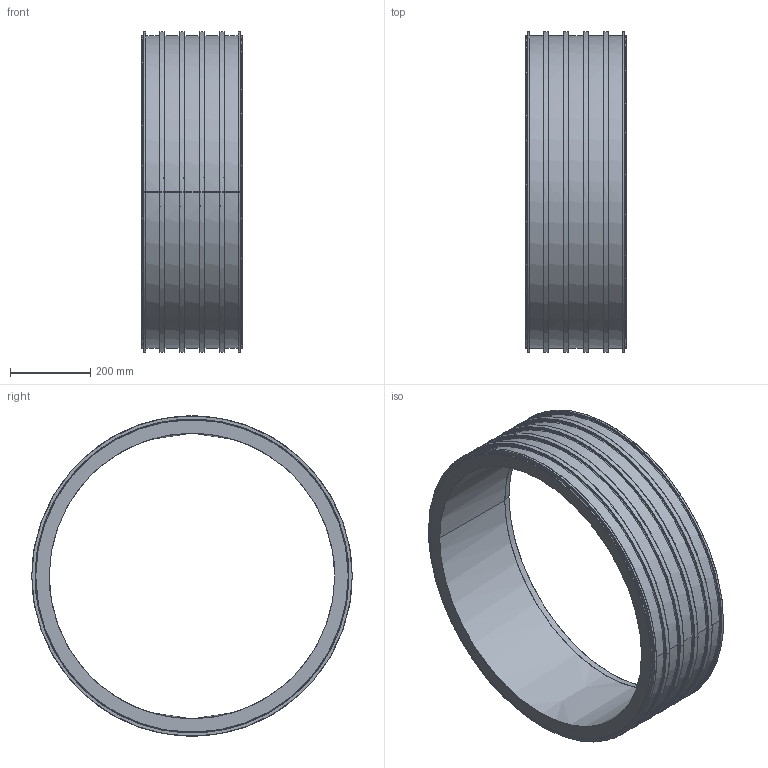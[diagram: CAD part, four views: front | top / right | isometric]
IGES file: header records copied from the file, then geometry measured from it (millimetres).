
Start section:  PTC IGES file: asfl_d630.igs
Global section: file name: asfl_d630.igs; native system: Pro/ENGINEER by Parametric Technology Corporation; preprocessor: 2011490; author: mtunjic; organization: Unknown; date: 20130730.083911; units: millimetre
Bounding box: 250 x 800 x 800 mm (x, y, z)
Surface area: 1711037.4 mm2 (no closed solid volume)
Topology: 0 solids, 0 shells, 138 faces, 552 edges, 552 vertices
Faces by surface type: bspline 138
